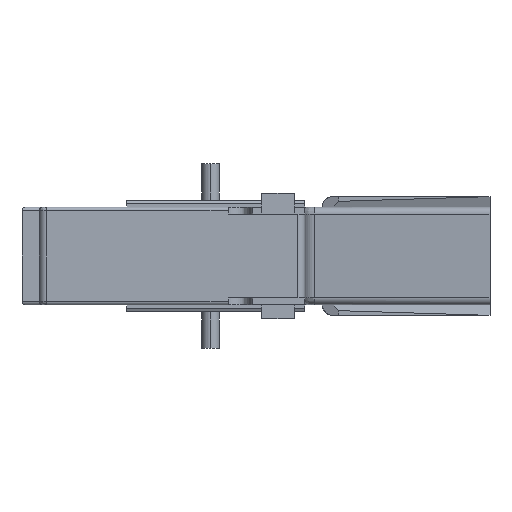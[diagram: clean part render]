
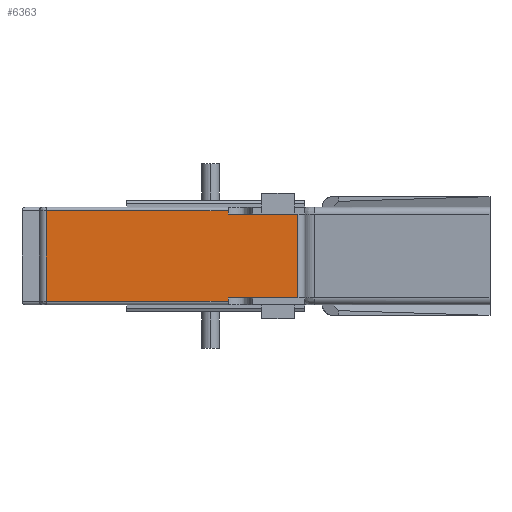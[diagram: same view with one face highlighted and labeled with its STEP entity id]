
A CAD part, left-side view. The second image highlights one B-rep face of the part: STEP entity #6363.
In plain terms, the highlighted planar face has unit normal (-1, 0, 0).
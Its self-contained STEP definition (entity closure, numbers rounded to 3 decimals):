
#870=DIRECTION('',(0.,1.,0.));
#871=VECTOR('',#870,26.);
#872=CARTESIAN_POINT('',(-26.75,11.,6.5));
#873=LINE('',#872,#871);
#883=DIRECTION('',(0.,0.,1.));
#884=VECTOR('',#883,0.5);
#885=CARTESIAN_POINT('',(-26.75,11.,6.));
#886=LINE('',#885,#884);
#1076=DIRECTION('',(0.,0.,1.));
#1077=VECTOR('',#1076,12.);
#1078=CARTESIAN_POINT('',(-26.75,1.,-6.));
#1079=LINE('',#1078,#1077);
#1102=DIRECTION('',(0.,-1.,0.));
#1103=VECTOR('',#1102,10.);
#1104=CARTESIAN_POINT('',(-26.75,11.,-6.));
#1105=LINE('',#1104,#1103);
#1206=DIRECTION('',(0.,-1.,0.));
#1207=VECTOR('',#1206,26.);
#1208=CARTESIAN_POINT('',(-26.75,37.,-6.5));
#1209=LINE('',#1208,#1207);
#1219=DIRECTION('',(0.,0.,1.));
#1220=VECTOR('',#1219,13.);
#1221=CARTESIAN_POINT('',(-26.75,37.,-6.5));
#1222=LINE('',#1221,#1220);
#1223=DIRECTION('',(0.,-1.,0.));
#1224=VECTOR('',#1223,10.);
#1225=CARTESIAN_POINT('',(-26.75,11.,6.));
#1226=LINE('',#1225,#1224);
#1227=DIRECTION('',(0.,0.,-1.));
#1228=VECTOR('',#1227,0.5);
#1229=CARTESIAN_POINT('',(-26.75,11.,-6.));
#1230=LINE('',#1229,#1228);
#4245=CARTESIAN_POINT('',(-26.75,11.,6.));
#4247=VERTEX_POINT('',#4245);
#4265=CARTESIAN_POINT('',(-26.75,1.,6.));
#4266=VERTEX_POINT('',#4265);
#4293=CARTESIAN_POINT('',(-26.75,11.,6.5));
#4294=VERTEX_POINT('',#4293);
#4295=CARTESIAN_POINT('',(-26.75,37.,6.5));
#4296=VERTEX_POINT('',#4295);
#4297=CARTESIAN_POINT('',(-26.75,37.,-6.5));
#4298=CARTESIAN_POINT('',(-26.75,11.,-6.5));
#4299=VERTEX_POINT('',#4297);
#4300=VERTEX_POINT('',#4298);
#4301=CARTESIAN_POINT('',(-26.75,1.,-6.));
#4302=VERTEX_POINT('',#4301);
#4303=CARTESIAN_POINT('',(-26.75,11.,-6.));
#4304=VERTEX_POINT('',#4303);
#6347=CARTESIAN_POINT('',(-26.75,38.,-7.));
#6348=DIRECTION('',(-1.,0.,0.));
#6349=DIRECTION('',(0.,-1.,0.));
#6350=AXIS2_PLACEMENT_3D('',#6347,#6348,#6349);
#6351=PLANE('',#6350);
#6352=ORIENTED_EDGE('',*,*,#6327,.F.);
#6354=ORIENTED_EDGE('',*,*,#6353,.T.);
#6355=ORIENTED_EDGE('',*,*,#5848,.F.);
#6356=ORIENTED_EDGE('',*,*,#5867,.F.);
#6357=ORIENTED_EDGE('',*,*,#5941,.T.);
#6358=ORIENTED_EDGE('',*,*,#6129,.F.);
#6359=ORIENTED_EDGE('',*,*,#6149,.F.);
#6360=ORIENTED_EDGE('',*,*,#6338,.T.);
#6361=EDGE_LOOP('',(#6352,#6354,#6355,#6356,#6357,#6358,#6359,#6360));
#6362=FACE_OUTER_BOUND('',#6361,.F.);
#6363=ADVANCED_FACE('',(#6362),#6351,.T.);
#5848=EDGE_CURVE('',#4294,#4296,#873,.T.);
#5867=EDGE_CURVE('',#4247,#4294,#886,.T.);
#5941=EDGE_CURVE('',#4247,#4266,#1226,.T.);
#6129=EDGE_CURVE('',#4302,#4266,#1079,.T.);
#6149=EDGE_CURVE('',#4304,#4302,#1105,.T.);
#6327=EDGE_CURVE('',#4299,#4300,#1209,.T.);
#6338=EDGE_CURVE('',#4304,#4300,#1230,.T.);
#6353=EDGE_CURVE('',#4299,#4296,#1222,.T.);
